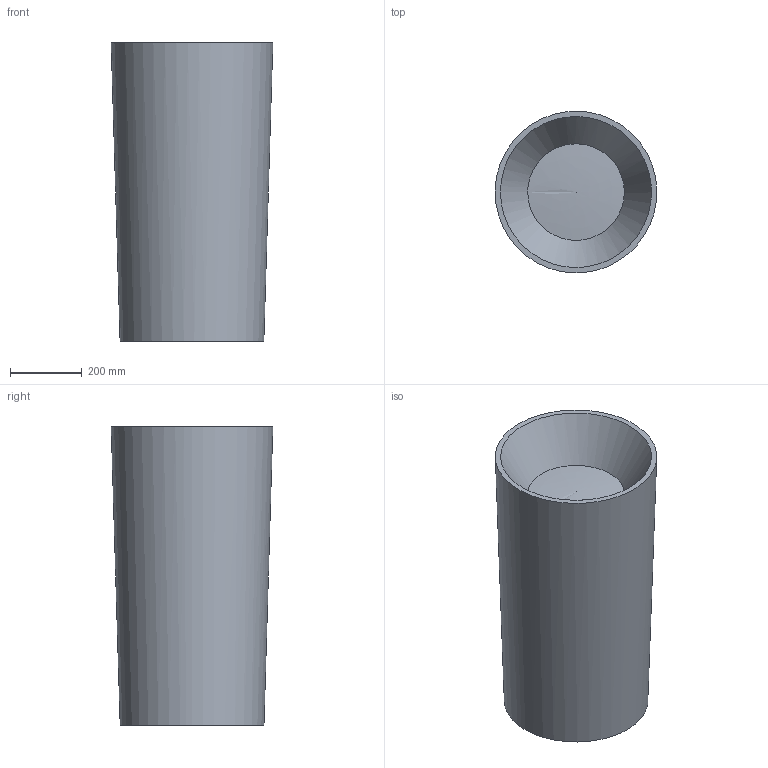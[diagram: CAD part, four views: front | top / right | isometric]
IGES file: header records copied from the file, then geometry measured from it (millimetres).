
Global section: file name: \\Archi-NAS\Comune\X GIOVANNI\LAVABI\FREESTANDING\DIAMOND TOWER\3D\DIAMOND TOWER.igs; native system: Rhinoceros ( Feb 23 2021 ); preprocessor: Trout Lake IGES 012 Feb 23 2021; date: 230525.130632; units: millimetre
Bounding box: 449.61 x 449.44 x 830.25 mm (x, y, z)
Surface area: 2636386.2 mm2 (no closed solid volume)
Topology: 0 solids, 0 shells, 31 faces, 93 edges, 62 vertices
Faces by surface type: bspline 31
